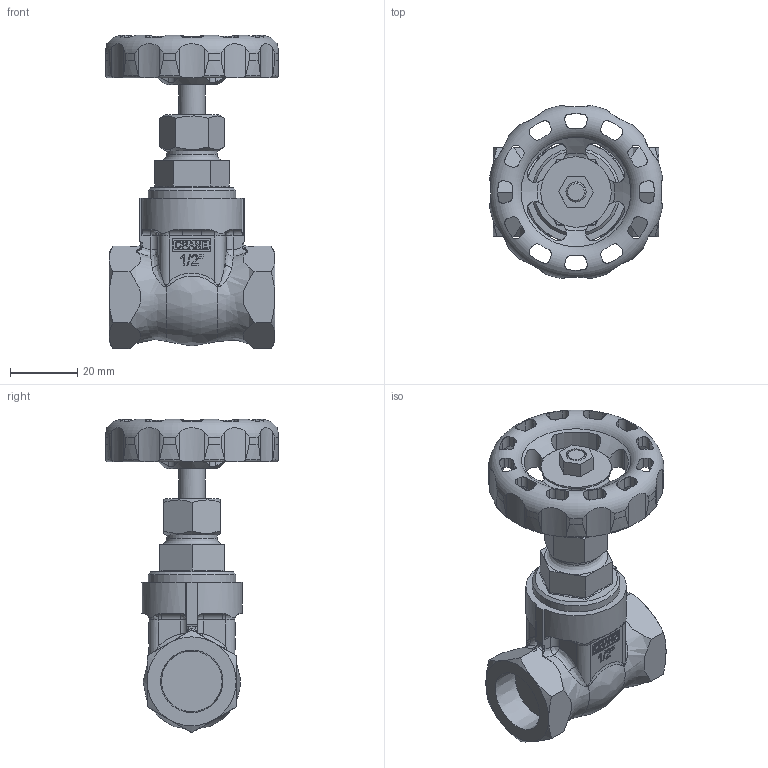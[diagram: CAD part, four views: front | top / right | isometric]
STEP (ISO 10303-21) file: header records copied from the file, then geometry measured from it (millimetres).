
FILE_DESCRIPTION((''),'2;1');
FILE_NAME('P:\Fastrack\53972_CRANE 3D\Gate Valves\Work Space\Handwheel\D151_1-2in\D151_1-2in.stp','2011-03-11T09:31:38',('btaylor'),(''),'Autodesk Inventor 2008','Autodesk Inventor 2008','');
FILE_SCHEMA(('AUTOMOTIVE_DESIGN { 1 0 10303 214 1 1 1 1 }'));
Length unit declared in the file: millimetre
Products named in the file (1): D151_1-2in
Bounding box: 51.5 x 51.5 x 93.41 mm (x, y, z)
Volume: 55048.3 mm3; surface area: 19725.6 mm2
Topology: 1 solids, 1 shells, 718 faces, 1980 edges, 1273 vertices
Faces by surface type: plane 316, cylinder 188, bspline 184, cone 27, torus 3
Full cylindrical faces by diameter (mm): 6 x1, 7.9 x1, 15 x1, 21 x1, 26.2 x1
Entity records: 31072 total; most frequent: CARTESIAN_POINT 13957, ORIENTED_EDGE 3852, DIRECTION 2625, EDGE_CURVE 1926, VERTEX_POINT 1260, VECTOR 927, LINE 927, AXIS2_PLACEMENT_3D 849
